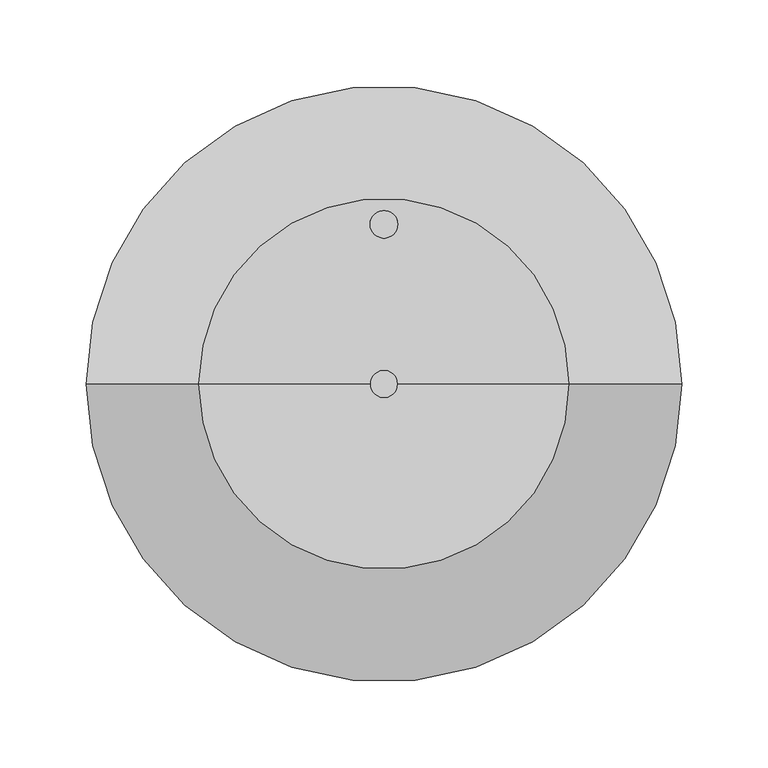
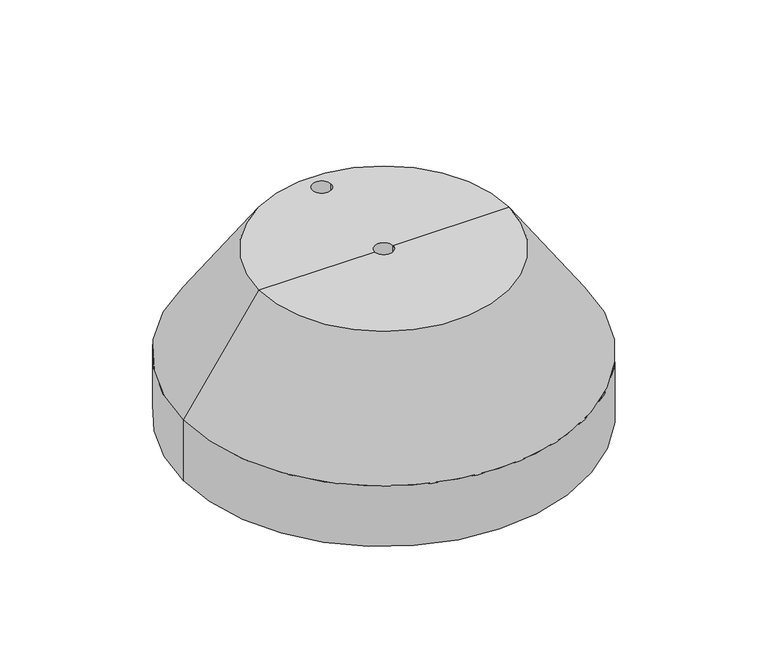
"""IFC4 building model written with IfcOpenShell, lengths in millimetres: proxy geometry, КНС_ОсновниеБетонное_DKC : NL0345_Бетон_20кг."""

from ifc_helpers import new_model, si_unit, frame, origin, origin_with_axes, place, context, project, spatial, polyline, circle_curve, source, transform, mapped, element, save
from ifc_brep_helpers import plane_surface, cylinder_surface, revolved_surface, advanced_brep


def security_devices_26e087ef(model_context):
    return source(origin(), model_context, "Body", "AdvancedBrep", [
        advanced_brep(
        [(-172.5, 0.0, 55.0), (172.5, 0.0, 55.0), (172.5, 0.0, 0.0), (-172.5, 0.0, 0.0), (-107.5, 0.0, 150.0), (107.5, 0.0, 150.0), (-8.0, 0.0, 150.0), (8.0, 0.0, 150.0), (8.0, 92.5, 150.0), (-8.0, 92.5, 150.0), (0.0, 0.0, 0.0), (-8.0, 0.0, 55.0), (8.0, 0.0, 55.0), (-8.0, 92.5, 55.0), (8.0, 92.5, 55.0)],
        [
            (0, 1, circle_curve(frame((0.0, 0.0, 55.0), z_axis=(0.0, 0.0, -1.0), x_axis=(1.0, 0.0, 0.0)), 172.5)),
            (1, 2),
            (2, 3, circle_curve(origin_with_axes(), 172.5)),
            (3, 0),
            (1, 0, circle_curve(frame((0.0, 0.0, 55.0), z_axis=(0.0, 0.0, -1.0), x_axis=(1.0, 0.0, 0.0)), 172.5)),
            (3, 2, circle_curve(origin_with_axes(), 172.5)),
            (0, 4),
            (4, 5, circle_curve(frame((0.0, 0.0, 150.0), z_axis=(0.0, 0.0, -1.0), x_axis=(1.0, 0.0, 0.0)), 107.5)),
            (5, 1),
            (5, 4, circle_curve(frame((0.0, 0.0, 150.0), z_axis=(0.0, 0.0, -1.0), x_axis=(1.0, 0.0, 0.0)), 107.5)),
            (4, 6),
            (6, 7, circle_curve(frame((0.0, 0.0, 150.0), z_axis=(0.0, 0.0, -1.0), x_axis=(1.0, 0.0, 0.0)), 8.0)),
            (7, 5),
            (8, 9, circle_curve(frame((0.0, 92.5, 150.0), z_axis=(0.0, 0.0, -1.0), x_axis=(1.0, 0.0, 0.0)), 8.0)),
            (9, 8, circle_curve(frame((0.0, 92.5, 150.0), z_axis=(0.0, 0.0, -1.0), x_axis=(1.0, 0.0, 0.0)), 8.0)),
            (7, 6, circle_curve(frame((0.0, 0.0, 150.0), z_axis=(0.0, 0.0, -1.0), x_axis=(1.0, 0.0, 0.0)), 8.0)),
            (2, 10),
            (10, 3),
            (11, 12, circle_curve(frame((0.0, 0.0, 55.0), z_axis=(0.0, 0.0, 1.0), x_axis=(1.0, 0.0, 0.0)), 8.0)),
            (12, 11, circle_curve(frame((0.0, 0.0, 55.0), z_axis=(0.0, 0.0, 1.0), x_axis=(1.0, 0.0, 0.0)), 8.0)),
            (13, 14, circle_curve(frame((0.0, 92.5, 55.0), z_axis=(0.0, 0.0, 1.0), x_axis=(1.0, 0.0, 0.0)), 8.0)),
            (14, 13, circle_curve(frame((0.0, 92.5, 55.0), z_axis=(0.0, 0.0, 1.0), x_axis=(1.0, 0.0, 0.0)), 8.0)),
            (11, 6),
            (7, 12),
            (13, 9),
            (8, 14),
        ],
        [
            cylinder_surface(frame((0.0, 0.0, 2184.3150031), z_axis=(0.0, 0.0, 1.0), x_axis=(1.0, 0.0, 0.0)), 172.5),
            revolved_surface(polyline([(172.5, 0.0, 55.0), (107.5, 0.0, 150.0)]), (0.0, 0.0, 2184.3150031), (0.0, 0.0, 1.0)),
            plane_surface(frame((0.0, 0.0, 150.0), z_axis=(0.0, 0.0, 1.0), x_axis=(1.0, 0.0, 0.0))),
            plane_surface(frame((0.0, 0.0, 0.0), z_axis=(0.0, 0.0, -1.0), x_axis=(1.0, 0.0, 0.0))),
            plane_surface(frame((8.0, 0.0, 55.0), z_axis=(0.0, 0.0, 1.0), x_axis=(0.0, -1.0, 0.0))),
            revolved_surface(polyline([(8.0, 0.0, 150.0), (8.0, 0.0, 55.0)]), (0.0, 0.0, 55.0), (0.0, 0.0, 1.0)),
            revolved_surface(polyline([(8.0, 92.5, 150.0), (8.0, 92.5, 55.0)]), (0.0, 92.5, 0.0), (0.0, 0.0, 1.0)),
        ],
        [
            (0, [[1, 2, 3, 4]]),
            (0, [[-2, 5, -4, 6]]),
            (1, [[-1, 7, 8, 9]]),
            (1, [[-5, -9, 10, -7]]),
            (2, [[-8, 11, 12, 13], [14, 15]]),
            (2, [[-10, -13, 16, -11]]),
            (3, [[-3, 17, 18]]),
            (3, [[-6, -18, -17]]),
            (4, [[19, 20]]),
            (4, [[21, 22]]),
            (5, [[-19, 23, -16, 24]]),
            (5, [[-20, -24, -12, -23]]),
            (6, [[-21, 25, -14, 26]]),
            (6, [[-22, -26, -15, -25]]),
        ],
    ),
    ])


if __name__ == "__main__":
    model = new_model("IFC4")
    model_context = context("Model", 3, world=origin())
    ifc_project = project(units=[si_unit("LENGTHUNIT", "METRE", prefix="MILLI")], contexts=[model_context])
    site = spatial("IfcSite", under=ifc_project)
    building = spatial("IfcBuilding", under=site)
    placement = place(None, origin())
    security_devices_shape = security_devices_26e087ef(model_context)
    element("IfcBuildingElementProxy", 1, Name="КНС_ОсновниеБетонное_DKC : NL0345_Бетон_20кг", ObjectType="КНС_ОсновниеБетонное_DKC : NL0345_Бетон_20кг", at=placement, inside=building, context=model_context, shape_type="MappedRepresentation", body=[
        mapped(security_devices_shape, transform((0.0, 0.0, 0.0), x_axis=(1.0, 0.0, 0.0), y_axis=(0.0, 1.0, 0.0), z_axis=(0.0, 0.0, 1.0))),
    ])
    save(model, "model.ifc")
